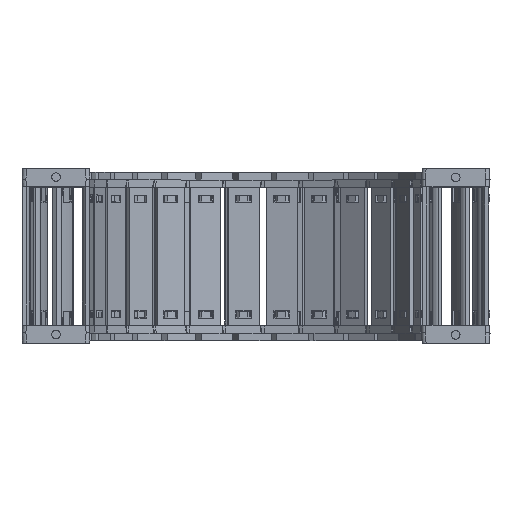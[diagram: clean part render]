
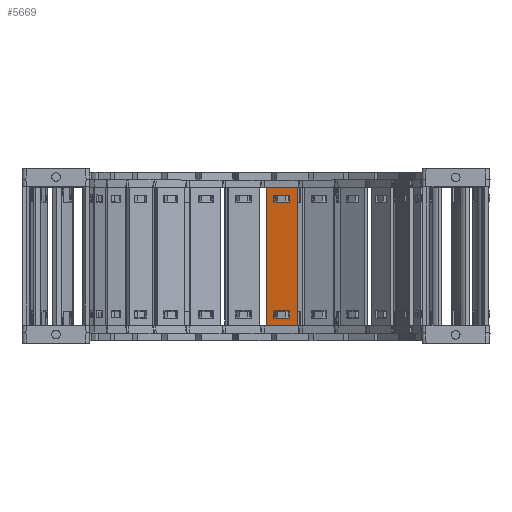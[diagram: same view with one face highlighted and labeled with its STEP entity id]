
A CAD part, top view. The second image highlights one B-rep face of the part: STEP entity #5669.
In plain terms, the highlighted planar face has unit normal (-0.182, 0, 0.983) as drawn and (0, 1, 0) by its records, which use the part's own axes.
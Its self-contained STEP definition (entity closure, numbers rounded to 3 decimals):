
#5089=DIRECTION('',(0.,0.,1.));
#5090=VECTOR('',#5089,15.8);
#5091=CARTESIAN_POINT('',(55.74,1.5,-7.9));
#5092=LINE('',#5091,#5090);
#5093=DIRECTION('',(-1.,0.,0.));
#5094=VECTOR('',#5093,70.5);
#5095=CARTESIAN_POINT('',(55.74,1.5,7.9));
#5096=LINE('',#5095,#5094);
#5097=DIRECTION('',(0.,0.,-1.));
#5098=VECTOR('',#5097,15.8);
#5099=CARTESIAN_POINT('',(-14.76,1.5,7.9));
#5100=LINE('',#5099,#5098);
#5101=DIRECTION('',(1.,0.,0.));
#5102=VECTOR('',#5101,3.648);
#5103=CARTESIAN_POINT('',(48.122,1.5,4.075));
#5104=LINE('',#5103,#5102);
#5105=DIRECTION('',(0.,0.,-1.));
#5106=VECTOR('',#5105,8.15);
#5107=CARTESIAN_POINT('',(51.77,1.5,4.075));
#5108=LINE('',#5107,#5106);
#5109=DIRECTION('',(-1.,0.,0.));
#5110=VECTOR('',#5109,3.648);
#5111=CARTESIAN_POINT('',(51.77,1.5,-4.075));
#5112=LINE('',#5111,#5110);
#5113=DIRECTION('',(0.,0.,-1.));
#5114=VECTOR('',#5113,8.15);
#5115=CARTESIAN_POINT('',(-7.142,1.5,4.075));
#5116=LINE('',#5115,#5114);
#5117=DIRECTION('',(-1.,0.,0.));
#5118=VECTOR('',#5117,3.648);
#5119=CARTESIAN_POINT('',(-7.142,1.5,-4.075));
#5120=LINE('',#5119,#5118);
#5121=DIRECTION('',(0.,0.,1.));
#5122=VECTOR('',#5121,8.15);
#5123=CARTESIAN_POINT('',(-10.79,1.5,-4.075));
#5124=LINE('',#5123,#5122);
#5125=DIRECTION('',(1.,0.,0.));
#5126=VECTOR('',#5125,3.648);
#5127=CARTESIAN_POINT('',(-10.79,1.5,4.075));
#5128=LINE('',#5127,#5126);
#5133=DIRECTION('',(-1.,0.,0.));
#5134=VECTOR('',#5133,70.5);
#5135=CARTESIAN_POINT('',(55.74,1.5,-7.9));
#5136=LINE('',#5135,#5134);
#5254=DIRECTION('',(0.,0.,-1.));
#5255=VECTOR('',#5254,8.15);
#5256=CARTESIAN_POINT('',(48.122,1.5,4.075));
#5257=LINE('',#5256,#5255);
#5439=CARTESIAN_POINT('',(51.77,1.5,4.075));
#5440=VERTEX_POINT('',#5439);
#5441=CARTESIAN_POINT('',(48.122,1.5,4.075));
#5442=VERTEX_POINT('',#5441);
#5483=CARTESIAN_POINT('',(48.122,1.5,-4.075));
#5484=VERTEX_POINT('',#5483);
#5485=CARTESIAN_POINT('',(51.77,1.5,-4.075));
#5486=VERTEX_POINT('',#5485);
#5487=CARTESIAN_POINT('',(55.74,1.5,7.9));
#5489=VERTEX_POINT('',#5487);
#5491=CARTESIAN_POINT('',(55.74,1.5,-7.9));
#5492=VERTEX_POINT('',#5491);
#5515=CARTESIAN_POINT('',(-7.142,1.5,4.075));
#5516=CARTESIAN_POINT('',(-7.142,1.5,-4.075));
#5517=VERTEX_POINT('',#5515);
#5518=VERTEX_POINT('',#5516);
#5519=CARTESIAN_POINT('',(-10.79,1.5,-4.075));
#5520=VERTEX_POINT('',#5519);
#5521=CARTESIAN_POINT('',(-10.79,1.5,4.075));
#5522=VERTEX_POINT('',#5521);
#5523=CARTESIAN_POINT('',(-14.76,1.5,7.9));
#5524=VERTEX_POINT('',#5523);
#5527=CARTESIAN_POINT('',(-14.76,1.5,-7.9));
#5528=VERTEX_POINT('',#5527);
#5638=CARTESIAN_POINT('',(87.48,1.5,10.061));
#5639=DIRECTION('',(0.,-1.,0.));
#5640=DIRECTION('',(0.,0.,-1.));
#5641=AXIS2_PLACEMENT_3D('',#5638,#5639,#5640);
#5642=PLANE('',#5641);
#5643=ORIENTED_EDGE('',*,*,#5577,.T.);
#5644=ORIENTED_EDGE('',*,*,#5603,.T.);
#5645=ORIENTED_EDGE('',*,*,#5616,.T.);
#5647=ORIENTED_EDGE('',*,*,#5646,.F.);
#5648=EDGE_LOOP('',(#5643,#5644,#5645,#5647));
#5649=FACE_OUTER_BOUND('',#5648,.F.);
#5651=ORIENTED_EDGE('',*,*,#5650,.F.);
#5652=ORIENTED_EDGE('',*,*,#5540,.T.);
#5654=ORIENTED_EDGE('',*,*,#5653,.T.);
#5656=ORIENTED_EDGE('',*,*,#5655,.T.);
#5657=EDGE_LOOP('',(#5651,#5652,#5654,#5656));
#5658=FACE_BOUND('',#5657,.F.);
#5660=ORIENTED_EDGE('',*,*,#5659,.T.);
#5662=ORIENTED_EDGE('',*,*,#5661,.T.);
#5664=ORIENTED_EDGE('',*,*,#5663,.T.);
#5666=ORIENTED_EDGE('',*,*,#5665,.T.);
#5667=EDGE_LOOP('',(#5660,#5662,#5664,#5666));
#5668=FACE_BOUND('',#5667,.F.);
#5669=ADVANCED_FACE('',(#5649,#5658,#5668),#5642,.F.);
#5540=EDGE_CURVE('',#5442,#5440,#5104,.T.);
#5577=EDGE_CURVE('',#5492,#5489,#5092,.T.);
#5603=EDGE_CURVE('',#5489,#5524,#5096,.T.);
#5616=EDGE_CURVE('',#5524,#5528,#5100,.T.);
#5646=EDGE_CURVE('',#5492,#5528,#5136,.T.);
#5650=EDGE_CURVE('',#5442,#5484,#5257,.T.);
#5653=EDGE_CURVE('',#5440,#5486,#5108,.T.);
#5655=EDGE_CURVE('',#5486,#5484,#5112,.T.);
#5659=EDGE_CURVE('',#5517,#5518,#5116,.T.);
#5661=EDGE_CURVE('',#5518,#5520,#5120,.T.);
#5663=EDGE_CURVE('',#5520,#5522,#5124,.T.);
#5665=EDGE_CURVE('',#5522,#5517,#5128,.T.);
